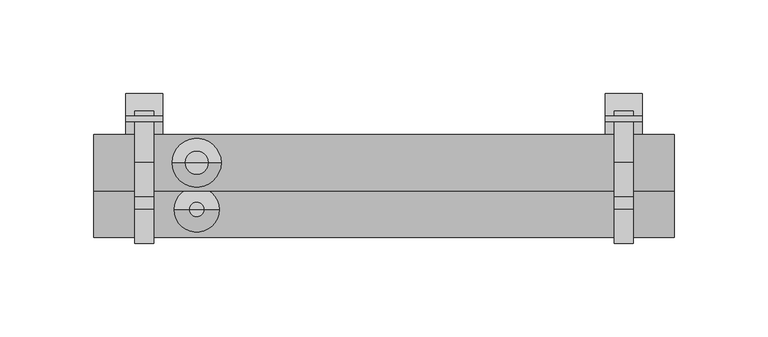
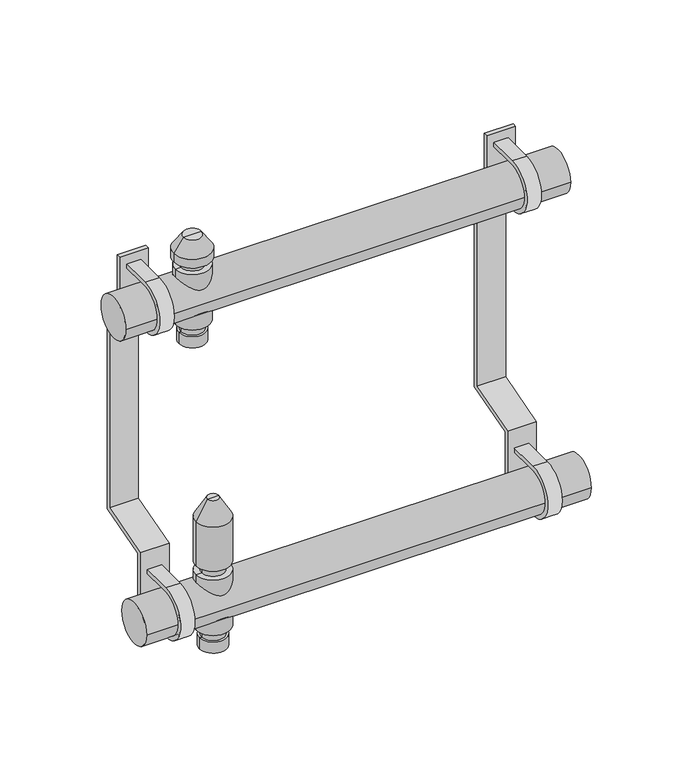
"""IFC4 building model written with IfcOpenShell, lengths in millimetres: valve geometry, PL CZ_Manifold_FT-VA : 05 circuits."""

import ifcopenshell
import ifcopenshell.guid

model = None  # the IFC model being written
_history = None  # IfcOwnerHistory: only IFC2X3 demands one
_inside = {}  # id of a spatial element -> (the spatial element, [elements in it])
_under = {}  # id of a project, library or spatial element -> (it, [spatial elements below it])
_declared = {}  # id of a project -> (the project, [libraries it declares])
_typed = {}  # id of a type object -> (the type object, [elements of that type])
_made_of = {}  # id of a material, layer set ... -> (it, [elements and type objects made of it])


def new_model(schema):
    """Start an empty IFC model of exactly this schema.

    Asked for "IFC4X3", IfcOpenShell would pick the latest addendum, in which some entities
    have other attributes; the version numbers below select the first issue.
    IFC2X3 requires an IfcOwnerHistory on every rooted entity: one is made here for all.
    """
    global model, _history
    if schema == "IFC4X3":
        model = ifcopenshell.file(schema_version=(4, 3, 0, 0))
    else:
        model = ifcopenshell.file(schema=schema)
    _inside.clear()
    _under.clear()
    _declared.clear()
    _typed.clear()
    _made_of.clear()
    _history = None
    if model.schema == "IFC2X3":
        org = make("IfcOrganization", Name="unknown")
        user = make(
            "IfcPersonAndOrganization",
            ThePerson=make("IfcPerson", FamilyName="unknown"),
            TheOrganization=org,
        )
        app = make(
            "IfcApplication",
            ApplicationDeveloper=org,
            Version="unknown",
            ApplicationFullName="unknown",
            ApplicationIdentifier="unknown",
        )
        _history = make(
            "IfcOwnerHistory",
            OwningUser=user,
            OwningApplication=app,
            ChangeAction="ADDED",
            CreationDate=0,
        )
    return model


def make(cls, **values):
    """One entity of the class cls with the attributes given. An attribute that is None is left unset."""
    return model.create_entity(
        cls, **{name: value for name, value in values.items() if value is not None}
    )


def rooted(cls, **values):
    """An entity with a GlobalId (a new one), such as an element, a storey or a relation."""
    return make(cls, GlobalId=ifcopenshell.guid.new(), OwnerHistory=_history, **values)


def si_unit(unit_type, name, prefix=None):
    """IfcSIUnit, for example si_unit("LENGTHUNIT", "METRE", prefix="MILLI")."""
    return make("IfcSIUnit", UnitType=unit_type, Prefix=prefix, Name=name)


def assignment(units):
    """IfcUnitAssignment: the units of a project."""
    return None if units is None else make("IfcUnitAssignment", Units=units)


def point(xyz):
    """IfcCartesianPoint."""
    return None if xyz is None else make("IfcCartesianPoint", Coordinates=xyz)


def direction(xyz):
    """IfcDirection."""
    return None if xyz is None else make("IfcDirection", DirectionRatios=xyz)


def frame(location, z_axis=None, x_axis=None):
    """IfcAxis2Placement3D, a coordinate frame: its origin and axes. An axis left out is left unset."""
    return make(
        "IfcAxis2Placement3D",
        Location=point(location),
        Axis=direction(z_axis),
        RefDirection=direction(x_axis),
    )


def frame_2d(location, x_axis=None):
    """IfcAxis2Placement2D, a coordinate frame in the plane: its origin and x axis."""
    return make(
        "IfcAxis2Placement2D", Location=point(location), RefDirection=direction(x_axis)
    )


def origin():
    """The frame at (0, 0, 0) with its axes left unset."""
    return frame((0.0, 0.0, 0.0))


def origin_2d():
    """The frame at (0, 0) in the plane with its x axis left unset."""
    return frame_2d((0.0, 0.0))


def place(relative_to, where):
    """IfcLocalPlacement: puts the frame where relative to a parent placement (None: the world)."""
    return make(
        "IfcLocalPlacement", PlacementRelTo=relative_to, RelativePlacement=where
    )


def context(
    kind, dimensions, precision=None, world=None, true_north=None, identifier=None
):
    """IfcGeometricRepresentationContext, for example the 3D "Model" context."""
    return make(
        "IfcGeometricRepresentationContext",
        ContextIdentifier=identifier,
        ContextType=kind,
        CoordinateSpaceDimension=dimensions,
        Precision=precision,
        WorldCoordinateSystem=world,
        TrueNorth=true_north,
    )


def project(units=None, contexts=None):
    """IfcProject with its units and contexts."""
    return rooted(
        "IfcProject",
        Name="project",
        RepresentationContexts=contexts,
        UnitsInContext=assignment(units),
    )


def spatial(cls, under=None, at=None, **own):
    """A site, building, storey or space (cls), placed at a placement, below another one or the project."""
    s = rooted(cls, ObjectPlacement=at, **own)
    if under is not None:
        _under.setdefault(under.id(), (under, []))[1].append(s)
    return s


def polyline(points):
    """IfcPolyline through the points."""
    return make("IfcPolyline", Points=[point(p) for p in points])


def circle_curve(where, radius):
    """IfcCircle in the frame where."""
    return make("IfcCircle", Position=where, Radius=radius)


def trimmed(basis, trim1, trim2, sense, master):
    """IfcTrimmedCurve: the piece of a basis curve between two trims."""
    return make(
        "IfcTrimmedCurve",
        BasisCurve=basis,
        Trim1=trim1,
        Trim2=trim2,
        SenseAgreement=sense,
        MasterRepresentation=master,
    )


def segment(curve, same_sense, transition):
    """IfcCompositeCurveSegment."""
    return make(
        "IfcCompositeCurveSegment",
        Transition=transition,
        SameSense=same_sense,
        ParentCurve=curve,
    )


def composite_curve(segments, self_intersect=None):
    """IfcCompositeCurve: segments joined end to end."""
    return make("IfcCompositeCurve", Segments=segments, SelfIntersect=self_intersect)


def outline(outer, holes=None, kind="AREA"):
    """IfcArbitraryClosedProfileDef: a profile drawn as a closed curve; with holes, ...WithVoids."""
    if holes is None:
        return make("IfcArbitraryClosedProfileDef", ProfileType=kind, OuterCurve=outer)
    return make(
        "IfcArbitraryProfileDefWithVoids",
        ProfileType=kind,
        OuterCurve=outer,
        InnerCurves=holes,
    )


def extrude(swept, where, along, depth):
    """IfcExtrudedAreaSolid: the profile swept, set in the frame where, extruded along a direction by depth."""
    return make(
        "IfcExtrudedAreaSolid",
        SweptArea=swept,
        Position=where,
        ExtrudedDirection=direction(along),
        Depth=depth,
    )


def shape(context_of_items, identifier, shape_type, items):
    """IfcShapeRepresentation: the items that make up one representation, for example the "Body"."""
    return make(
        "IfcShapeRepresentation",
        ContextOfItems=context_of_items,
        RepresentationIdentifier=identifier,
        RepresentationType=shape_type,
        Items=items,
    )


def source(mapping_origin, context_of_items, identifier, shape_type, items):
    """IfcRepresentationMap: a shape defined once, which mapped items show again and again."""
    return make(
        "IfcRepresentationMap",
        MappingOrigin=mapping_origin,
        MappedRepresentation=shape(context_of_items, identifier, shape_type, items),
    )


def transform(
    local_origin,
    x_axis=None,
    y_axis=None,
    z_axis=None,
    scale=None,
    scale2=None,
    scale3=None,
    uniform=True,
):
    """IfcCartesianTransformationOperator3D, or its non-uniform kind. x_axis, y_axis, z_axis: its Axis1, 2, 3."""
    if uniform:
        return make(
            "IfcCartesianTransformationOperator3D",
            Axis1=direction(x_axis),
            Axis2=direction(y_axis),
            LocalOrigin=point(local_origin),
            Scale=scale,
            Axis3=direction(z_axis),
        )
    return make(
        "IfcCartesianTransformationOperator3DnonUniform",
        Axis1=direction(x_axis),
        Axis2=direction(y_axis),
        LocalOrigin=point(local_origin),
        Scale=scale,
        Axis3=direction(z_axis),
        Scale2=scale2,
        Scale3=scale3,
    )


def mapped(mapping_source, mapping_target):
    """IfcMappedItem: shows the shape of a source again, moved by a transform."""
    return make(
        "IfcMappedItem", MappingSource=mapping_source, MappingTarget=mapping_target
    )


def made_of(thing, what):
    """Note that an element or type object is made of a material, layer set ...; save() writes the relation."""
    if what is not None:
        _made_of.setdefault(what.id(), (what, []))[1].append(thing)
    return thing


def element(
    cls,
    number,
    at=None,
    inside=None,
    cuts=None,
    type_object=None,
    material=None,
    context=None,
    identifier="Body",
    shape_type=None,
    held_by="IfcProductDefinitionShape",
    body=None,
    shapes=None,
    **own,
):
    """One element of the class cls, such as IfcWall. Its Tag is "e" and its number.

    at: its placement. inside: the storey or other place that contains it. cuts: it is an
    opening in that element (IfcRelVoidsElement). A single representation is given by context,
    identifier, shape_type and body (its items); several are given by shapes. held_by: the class
    of the entity that holds the representations. save() writes the other relations.
    """
    e = rooted(cls, Tag="e%d" % number, ObjectPlacement=at, **own)
    if body is not None:
        shapes = [shape(context, identifier, shape_type, body)]
    if shapes is not None:
        e.Representation = make(held_by, Representations=shapes)
    if inside is not None:
        _inside.setdefault(inside.id(), (inside, []))[1].append(e)
    if cuts is not None:
        rooted(
            "IfcRelVoidsElement", RelatingBuildingElement=cuts, RelatedOpeningElement=e
        )
    if type_object is not None:
        _typed.setdefault(type_object.id(), (type_object, []))[1].append(e)
    return made_of(e, material)


def aggregate(whole, parts):
    """IfcRelAggregates: a whole, such as a stair, and the parts it consists of."""
    return rooted("IfcRelAggregates", RelatingObject=whole, RelatedObjects=parts)


def save(model, path):
    """Write the relations noted so far, then the file.

    IfcRelAggregates (storeys below a building ...), IfcRelContainedInSpatialStructure (elements
    in a storey), IfcRelDefinesByType, IfcRelAssociatesMaterial and IfcRelDeclares: one each for
    every whole, place, type object, material and project.
    """
    for whole, parts in _under.values():
        aggregate(whole, parts)
    for where, things in _inside.values():
        rooted(
            "IfcRelContainedInSpatialStructure",
            RelatedElements=things,
            RelatingStructure=where,
        )
    for kind, things in _typed.values():
        rooted("IfcRelDefinesByType", RelatedObjects=things, RelatingType=kind)
    for what, things in _made_of.values():
        rooted("IfcRelAssociatesMaterial", RelatedObjects=things, RelatingMaterial=what)
    for by, libraries in _declared.values():
        rooted("IfcRelDeclares", RelatingContext=by, RelatedDefinitions=libraries)
    model.write(path)


def plane_surface(at):
    """IfcPlane: the flat surface through the origin of the frame at, square to its z axis."""
    return make("IfcPlane", Position=at)


def cylinder_surface(at, radius):
    """IfcCylindricalSurface: all points at the distance radius from the z axis of the frame at."""
    return make("IfcCylindricalSurface", Position=at, Radius=radius)


def revolved_surface(curve, axis_point, axis_direction):
    """IfcSurfaceOfRevolution: the curve turned about the line through axis_point along axis_direction."""
    return make(
        "IfcSurfaceOfRevolution",
        SweptCurve=make("IfcArbitraryOpenProfileDef", ProfileType="CURVE", Curve=curve),
        AxisPosition=make("IfcAxis1Placement", Location=point(axis_point), Axis=direction(axis_direction)),
    )


def advanced_brep(points, edges, surfaces, faces):
    """IfcAdvancedBrep: a solid bounded by faces that lie on surfaces and meet in shared edges.

    An edge is (start, end): straight between two places in points (the first is 0);
    or (start, end, curve); or (start, end, curve, False) where it runs against its curve.
    A face is (place in surfaces, loops), or (place, loops, False) where it looks against
    its surface's normal. A loop lists edges by number (the first is 1), with a minus sign
    where the edge is run from its end to its start. The first loop is the outer one.
    """
    corners = [point(p) for p in points]
    vertices = [make("IfcVertexPoint", VertexGeometry=c) for c in corners]
    made = []
    for start, end, *more in edges:
        made.append(
            make(
                "IfcEdgeCurve",
                EdgeStart=vertices[start],
                EdgeEnd=vertices[end],
                EdgeGeometry=more[0] if more else make("IfcPolyline", Points=[corners[start], corners[end]]),
                SameSense=more[1] if len(more) > 1 else True,
            )
        )
    hull = []
    for where, loops, *sense in faces:
        bounds = []
        for j, loop in enumerate(loops):
            ring = [make("IfcOrientedEdge", EdgeElement=made[abs(k) - 1], Orientation=k > 0) for k in loop]
            bounds.append(
                make(
                    "IfcFaceOuterBound" if j == 0 else "IfcFaceBound",
                    Bound=make("IfcEdgeLoop", EdgeList=ring),
                    Orientation=True,
                )
            )
        hull.append(make("IfcAdvancedFace", Bounds=bounds, FaceSurface=surfaces[where], SameSense=sense[0] if sense else True))
    return make("IfcAdvancedBrep", Outer=make("IfcClosedShell", CfsFaces=hull))


def valve_1cd17e95(model_context):
    return source(origin(), model_context, "Body", "SolidModel", [
        advanced_brep(
        [(28.5, 25.0, 174.88733), (47.5, 25.0, 174.88733), (38.0, 25.0, 174.88733), (28.5, 25.0, 182.9630354), (47.5, 25.0, 182.9630354), (30.0, 25.0, 182.9630354), (46.0, 25.0, 182.9630354), (30.0, 25.0, 189.669747), (46.0, 25.0, 189.669747), (26.0, 25.0, 189.669747), (50.0, 25.0, 189.669747), (26.0, 25.0, 230.330253), (50.0, 25.0, 230.330253), (30.0, 25.0, 230.330253), (46.0, 25.0, 230.330253), (30.0, 25.0, 236.0474786), (46.0, 25.0, 236.0474786), (25.0, 25.0, 236.0474786), (51.0, 25.0, 236.0474786), (25.0, 25.0, 242.337955), (51.0, 25.0, 242.337955), (31.6551779, 25.0, 251.842534), (44.3448221, 25.0, 251.842534), (38.0, 25.0, 251.842534)],
        [
            (0, 1, circle_curve(frame((38.0, 25.0, 174.88733), z_axis=(0.0, 0.0, -1.0), x_axis=(1.0, 0.0, 0.0)), 9.5)),
            (1, 2),
            (2, 0),
            (1, 0, circle_curve(frame((38.0, 25.0, 174.88733), z_axis=(0.0, 0.0, -1.0), x_axis=(1.0, 0.0, 0.0)), 9.5)),
            (3, 4, circle_curve(frame((38.0, 25.0, 182.9630354), z_axis=(0.0, 0.0, -1.0), x_axis=(1.0, 0.0, 0.0)), 9.5)),
            (4, 1),
            (0, 3),
            (4, 3, circle_curve(frame((38.0, 25.0, 182.9630354), z_axis=(0.0, 0.0, -1.0), x_axis=(1.0, 0.0, 0.0)), 9.5)),
            (5, 6, circle_curve(frame((38.0, 25.0, 182.9630354), z_axis=(0.0, 0.0, -1.0), x_axis=(1.0, 0.0, 0.0)), 8.0)),
            (6, 4),
            (3, 5),
            (6, 5, circle_curve(frame((38.0, 25.0, 182.9630354), z_axis=(0.0, 0.0, -1.0), x_axis=(1.0, 0.0, 0.0)), 8.0)),
            (7, 8, circle_curve(frame((38.0, 25.0, 189.669747), z_axis=(0.0, 0.0, -1.0), x_axis=(1.0, 0.0, 0.0)), 8.0)),
            (8, 6),
            (5, 7),
            (8, 7, circle_curve(frame((38.0, 25.0, 189.669747), z_axis=(0.0, 0.0, -1.0), x_axis=(1.0, 0.0, 0.0)), 8.0)),
            (9, 10, circle_curve(frame((38.0, 25.0, 189.669747), z_axis=(0.0, 0.0, -1.0), x_axis=(1.0, 0.0, 0.0)), 12.0)),
            (10, 8),
            (7, 9),
            (10, 9, circle_curve(frame((38.0, 25.0, 189.669747), z_axis=(0.0, 0.0, -1.0), x_axis=(1.0, 0.0, 0.0)), 12.0)),
            (11, 12, circle_curve(frame((38.0, 25.0, 230.330253), z_axis=(0.0, 0.0, -1.0), x_axis=(1.0, 0.0, 0.0)), 12.0)),
            (12, 10),
            (9, 11),
            (12, 11, circle_curve(frame((38.0, 25.0, 230.330253), z_axis=(0.0, 0.0, -1.0), x_axis=(1.0, 0.0, 0.0)), 12.0)),
            (13, 14, circle_curve(frame((38.0, 25.0, 230.330253), z_axis=(0.0, 0.0, -1.0), x_axis=(1.0, 0.0, 0.0)), 8.0)),
            (14, 12),
            (11, 13),
            (14, 13, circle_curve(frame((38.0, 25.0, 230.330253), z_axis=(0.0, 0.0, -1.0), x_axis=(1.0, 0.0, 0.0)), 8.0)),
            (15, 16, circle_curve(frame((38.0, 25.0, 236.0474786), z_axis=(0.0, 0.0, -1.0), x_axis=(1.0, 0.0, 0.0)), 8.0)),
            (16, 14),
            (13, 15),
            (16, 15, circle_curve(frame((38.0, 25.0, 236.0474786), z_axis=(0.0, 0.0, -1.0), x_axis=(1.0, 0.0, 0.0)), 8.0)),
            (17, 18, circle_curve(frame((38.0, 25.0, 236.0474786), z_axis=(0.0, 0.0, -1.0), x_axis=(1.0, 0.0, 0.0)), 13.0)),
            (18, 16),
            (15, 17),
            (18, 17, circle_curve(frame((38.0, 25.0, 236.0474786), z_axis=(0.0, 0.0, -1.0), x_axis=(1.0, 0.0, 0.0)), 13.0)),
            (19, 20, circle_curve(frame((38.0, 25.0, 242.337955), z_axis=(0.0, 0.0, -1.0), x_axis=(1.0, 0.0, 0.0)), 13.0)),
            (20, 18),
            (17, 19),
            (20, 19, circle_curve(frame((38.0, 25.0, 242.337955), z_axis=(0.0, 0.0, -1.0), x_axis=(1.0, 0.0, 0.0)), 13.0)),
            (21, 22, circle_curve(frame((38.0, 25.0, 251.842534), z_axis=(0.0, 0.0, -1.0), x_axis=(1.0, 0.0, 0.0)), 6.3448221)),
            (22, 20),
            (19, 21),
            (22, 21, circle_curve(frame((38.0, 25.0, 251.842534), z_axis=(0.0, 0.0, -1.0), x_axis=(1.0, 0.0, 0.0)), 6.3448221)),
            (23, 22),
            (21, 23),
        ],
        [
            plane_surface(frame((38.0, 25.0, 174.88733), z_axis=(0.0, 0.0, -1.0), x_axis=(1.0, 0.0, 0.0))),
            cylinder_surface(frame((38.0, 25.0, 247.7026565), z_axis=(0.0, 0.0, 1.0), x_axis=(1.0, 0.0, 0.0)), 9.5),
            plane_surface(frame((38.0, 25.0, 182.9630354), z_axis=(0.0, 0.0, 1.0), x_axis=(1.0, 0.0, 0.0))),
            cylinder_surface(frame((38.0, 25.0, 247.7026565), z_axis=(0.0, 0.0, 1.0), x_axis=(1.0, 0.0, 0.0)), 8.0),
            plane_surface(frame((38.0, 25.0, 189.669747), z_axis=(0.0, 0.0, -1.0), x_axis=(1.0, 0.0, 0.0))),
            cylinder_surface(frame((38.0, 25.0, 247.7026565), z_axis=(0.0, 0.0, 1.0), x_axis=(1.0, 0.0, 0.0)), 12.0),
            plane_surface(frame((38.0, 25.0, 230.330253), z_axis=(0.0, 0.0, 1.0), x_axis=(1.0, 0.0, 0.0))),
            plane_surface(frame((38.0, 25.0, 236.0474786), z_axis=(0.0, 0.0, -1.0), x_axis=(1.0, 0.0, 0.0))),
            cylinder_surface(frame((38.0, 25.0, 247.7026565), z_axis=(0.0, 0.0, 1.0), x_axis=(1.0, 0.0, 0.0)), 13.0),
            revolved_surface(polyline([(51.0, 25.0, 242.337955), (44.3448221, 25.0, 251.842534)]), (38.0, 25.0, 247.7026565), (0.0, 0.0, 1.0)),
            plane_surface(frame((38.0, 25.0, 251.842534), z_axis=(0.0, 0.0, 1.0), x_axis=(1.0, 0.0, 0.0))),
        ],
        [
            (0, [[1, 2, 3]]),
            (0, [[4, -3, -2]]),
            (1, [[5, 6, -1, 7]]),
            (1, [[8, -7, -4, -6]]),
            (2, [[9, 10, -5, 11]]),
            (2, [[12, -11, -8, -10]]),
            (3, [[13, 14, -9, 15]]),
            (3, [[16, -15, -12, -14]]),
            (4, [[17, 18, -13, 19]]),
            (4, [[20, -19, -16, -18]]),
            (5, [[21, 22, -17, 23]]),
            (5, [[24, -23, -20, -22]]),
            (6, [[25, 26, -21, 27]]),
            (6, [[28, -27, -24, -26]]),
            (3, [[29, 30, -25, 31]]),
            (3, [[32, -31, -28, -30]]),
            (7, [[33, 34, -29, 35]]),
            (7, [[36, -35, -32, -34]]),
            (8, [[37, 38, -33, 39]]),
            (8, [[40, -39, -36, -38]]),
            (9, [[41, 42, -37, 43]]),
            (9, [[44, -43, -40, -42]]),
            (10, [[45, -41, 46]]),
            (10, [[-46, -44, -45]]),
        ],
    ),
        advanced_brep(
        [(28.5, 0.0, -35.11267), (47.5, 0.0, -35.11267), (38.0, 0.0, -35.11267), (28.5, 0.0, -27.0369646), (47.5, 0.0, -27.0369646), (30.0, 0.0, -27.0369646), (46.0, 0.0, -27.0369646), (30.0, 0.0, -20.330253), (46.0, 0.0, -20.330253), (26.0, 0.0, -20.330253), (50.0, 0.0, -20.330253), (26.0, 0.0, 20.330253), (50.0, 0.0, 20.330253), (30.0, 0.0, 20.330253), (46.0, 0.0, 20.330253), (30.0, 0.0, 27.0474786), (46.0, 0.0, 27.0474786), (26.0, 0.0, 27.0474786), (50.0, 0.0, 27.0474786), (26.0, 0.0, 59.4084325), (50.0, 0.0, 59.4084325), (34.0, 0.0, 73.264839), (42.0, 0.0, 73.264839), (38.0, 0.0, 73.264839)],
        [
            (0, 1, circle_curve(frame((38.0, 0.0, -35.11267), z_axis=(0.0, 0.0, -1.0), x_axis=(1.0, 0.0, 0.0)), 9.5)),
            (1, 2),
            (2, 0),
            (1, 0, circle_curve(frame((38.0, 0.0, -35.11267), z_axis=(0.0, 0.0, -1.0), x_axis=(1.0, 0.0, 0.0)), 9.5)),
            (3, 4, circle_curve(frame((38.0, 0.0, -27.0369646), z_axis=(0.0, 0.0, -1.0), x_axis=(1.0, 0.0, 0.0)), 9.5)),
            (4, 1),
            (0, 3),
            (4, 3, circle_curve(frame((38.0, 0.0, -27.0369646), z_axis=(0.0, 0.0, -1.0), x_axis=(1.0, 0.0, 0.0)), 9.5)),
            (5, 6, circle_curve(frame((38.0, 0.0, -27.0369646), z_axis=(0.0, 0.0, -1.0), x_axis=(1.0, 0.0, 0.0)), 8.0)),
            (6, 4),
            (3, 5),
            (6, 5, circle_curve(frame((38.0, 0.0, -27.0369646), z_axis=(0.0, 0.0, -1.0), x_axis=(1.0, 0.0, 0.0)), 8.0)),
            (7, 8, circle_curve(frame((38.0, 0.0, -20.330253), z_axis=(0.0, 0.0, -1.0), x_axis=(1.0, 0.0, 0.0)), 8.0)),
            (8, 6),
            (5, 7),
            (8, 7, circle_curve(frame((38.0, 0.0, -20.330253), z_axis=(0.0, 0.0, -1.0), x_axis=(1.0, 0.0, 0.0)), 8.0)),
            (9, 10, circle_curve(frame((38.0, 0.0, -20.330253), z_axis=(0.0, 0.0, -1.0), x_axis=(1.0, 0.0, 0.0)), 12.0)),
            (10, 8),
            (7, 9),
            (10, 9, circle_curve(frame((38.0, 0.0, -20.330253), z_axis=(0.0, 0.0, -1.0), x_axis=(1.0, 0.0, 0.0)), 12.0)),
            (11, 12, circle_curve(frame((38.0, 0.0, 20.330253), z_axis=(0.0, 0.0, -1.0), x_axis=(1.0, 0.0, 0.0)), 12.0)),
            (12, 10),
            (9, 11),
            (12, 11, circle_curve(frame((38.0, 0.0, 20.330253), z_axis=(0.0, 0.0, -1.0), x_axis=(1.0, 0.0, 0.0)), 12.0)),
            (13, 14, circle_curve(frame((38.0, 0.0, 20.330253), z_axis=(0.0, 0.0, -1.0), x_axis=(1.0, 0.0, 0.0)), 8.0)),
            (14, 12),
            (11, 13),
            (14, 13, circle_curve(frame((38.0, 0.0, 20.330253), z_axis=(0.0, 0.0, -1.0), x_axis=(1.0, 0.0, 0.0)), 8.0)),
            (15, 16, circle_curve(frame((38.0, 0.0, 27.0474786), z_axis=(0.0, 0.0, -1.0), x_axis=(1.0, 0.0, 0.0)), 8.0)),
            (16, 14),
            (13, 15),
            (16, 15, circle_curve(frame((38.0, 0.0, 27.0474786), z_axis=(0.0, 0.0, -1.0), x_axis=(1.0, 0.0, 0.0)), 8.0)),
            (17, 18, circle_curve(frame((38.0, 0.0, 27.0474786), z_axis=(0.0, 0.0, -1.0), x_axis=(1.0, 0.0, 0.0)), 12.0)),
            (18, 16),
            (15, 17),
            (18, 17, circle_curve(frame((38.0, 0.0, 27.0474786), z_axis=(0.0, 0.0, -1.0), x_axis=(1.0, 0.0, 0.0)), 12.0)),
            (19, 20, circle_curve(frame((38.0, 0.0, 59.4084325), z_axis=(0.0, 0.0, -1.0), x_axis=(1.0, 0.0, 0.0)), 12.0)),
            (20, 18),
            (17, 19),
            (20, 19, circle_curve(frame((38.0, 0.0, 59.4084325), z_axis=(0.0, 0.0, -1.0), x_axis=(1.0, 0.0, 0.0)), 12.0)),
            (21, 22, circle_curve(frame((38.0, 0.0, 73.264839), z_axis=(0.0, 0.0, -1.0), x_axis=(1.0, 0.0, 0.0)), 4.0)),
            (22, 20),
            (19, 21),
            (22, 21, circle_curve(frame((38.0, 0.0, 73.264839), z_axis=(0.0, 0.0, -1.0), x_axis=(1.0, 0.0, 0.0)), 4.0)),
            (23, 22),
            (21, 23),
        ],
        [
            plane_surface(frame((38.0, 0.0, -35.11267), z_axis=(0.0, 0.0, -1.0), x_axis=(1.0, 0.0, 0.0))),
            cylinder_surface(frame((38.0, 0.0, 58.264839), z_axis=(0.0, 0.0, 1.0), x_axis=(1.0, 0.0, 0.0)), 9.5),
            plane_surface(frame((38.0, 0.0, -27.0369646), z_axis=(0.0, 0.0, 1.0), x_axis=(1.0, 0.0, 0.0))),
            cylinder_surface(frame((38.0, 0.0, 58.264839), z_axis=(0.0, 0.0, 1.0), x_axis=(1.0, 0.0, 0.0)), 8.0),
            plane_surface(frame((38.0, 0.0, -20.330253), z_axis=(0.0, 0.0, -1.0), x_axis=(1.0, 0.0, 0.0))),
            cylinder_surface(frame((38.0, 0.0, 58.264839), z_axis=(0.0, 0.0, 1.0), x_axis=(1.0, 0.0, 0.0)), 12.0),
            plane_surface(frame((38.0, 0.0, 20.330253), z_axis=(0.0, 0.0, 1.0), x_axis=(1.0, 0.0, 0.0))),
            plane_surface(frame((38.0, 0.0, 27.0474786), z_axis=(0.0, 0.0, -1.0), x_axis=(1.0, 0.0, 0.0))),
            revolved_surface(polyline([(50.0, 0.0, 59.4084325), (42.0, 0.0, 73.264839)]), (38.0, 0.0, 58.264839), (0.0, 0.0, 1.0)),
            plane_surface(frame((38.0, 0.0, 73.264839), z_axis=(0.0, 0.0, 1.0), x_axis=(1.0, 0.0, 0.0))),
        ],
        [
            (0, [[1, 2, 3]]),
            (0, [[4, -3, -2]]),
            (1, [[5, 6, -1, 7]]),
            (1, [[8, -7, -4, -6]]),
            (2, [[9, 10, -5, 11]]),
            (2, [[12, -11, -8, -10]]),
            (3, [[13, 14, -9, 15]]),
            (3, [[16, -15, -12, -14]]),
            (4, [[17, 18, -13, 19]]),
            (4, [[20, -19, -16, -18]]),
            (5, [[21, 22, -17, 23]]),
            (5, [[24, -23, -20, -22]]),
            (6, [[25, 26, -21, 27]]),
            (6, [[28, -27, -24, -26]]),
            (3, [[29, 30, -25, 31]]),
            (3, [[32, -31, -28, -30]]),
            (7, [[33, 34, -29, 35]]),
            (7, [[36, -35, -32, -34]]),
            (5, [[37, 38, -33, 39]]),
            (5, [[40, -39, -36, -38]]),
            (8, [[41, 42, -37, 43]]),
            (8, [[44, -43, -40, -42]]),
            (9, [[45, -41, 46]]),
            (9, [[-46, -44, -45]]),
        ],
    ),
        extrude(outline(composite_curve([segment(trimmed(circle_curve(origin_2d(), 15.0), [point((0.0, 15.0))], [point((0.0, -15.0))], True, "CARTESIAN"), True, "CONTINUOUS"), segment(polyline([(0.0, -15.0), (27.6751284, -15.0), (27.6751284, -18.0), (0.0, -18.0)]), True, "CONTINUOUS"), segment(trimmed(circle_curve(origin_2d(), 18.0), [point((0.0, -18.0))], [point((0.0, 18.0))], False, "CARTESIAN"), True, "CONTINUOUS"), segment(polyline([(0.0, 18.0), (27.6751284, 18.0), (27.6751284, 15.0), (0.0, 15.0)]), True, "CONTINUOUS")], self_intersect=False)), frame((261.0, 0.0, 0.0), z_axis=(1.0, 0.0, 0.0), x_axis=(0.0, 1.0, 0.0)), (0.0, 0.0, 1.0), 10.0),
        extrude(outline(composite_curve([segment(trimmed(circle_curve(frame_2d((25.0, 210.0)), 15.0), [point((25.0, 225.0))], [point((25.0, 195.0))], True, "CARTESIAN"), True, "CONTINUOUS"), segment(polyline([(25.0, 195.0), (52.6751284, 195.0), (52.6751284, 192.0), (25.0, 192.0)]), True, "CONTINUOUS"), segment(trimmed(circle_curve(frame_2d((25.0, 210.0)), 18.0), [point((25.0, 192.0))], [point((25.0, 228.0))], False, "CARTESIAN"), True, "CONTINUOUS"), segment(polyline([(25.0, 228.0), (52.6751284, 228.0), (52.6751284, 225.0), (25.0, 225.0)]), True, "CONTINUOUS")], self_intersect=False)), frame((261.0, 0.0, 0.0), z_axis=(1.0, 0.0, 0.0), x_axis=(0.0, 1.0, 0.0)), (0.0, 0.0, 1.0), 10.0),
        extrude(outline(polyline([(62.0, 182.8840762), (62.0, 40.6095793), (25.0, 30.0), (25.0, -30.0), (22.0, -30.0), (22.0, 32.2606622), (59.0, 42.8702414), (59.0, 180.3667773), (47.0, 182.4827011), (47.0, 235.0), (50.0, 235.0), (50.0, 185.0), (62.0, 182.8840762)])), frame((256.0, 0.0, 0.0), z_axis=(1.0, 0.0, 0.0), x_axis=(0.0, 1.0, 0.0)), (0.0, 0.0, 1.0), 20.0),
        extrude(outline(composite_curve([segment(trimmed(circle_curve(origin_2d(), 15.0), [point((0.0, 15.0))], [point((0.0, -15.0))], True, "CARTESIAN"), True, "CONTINUOUS"), segment(polyline([(0.0, -15.0), (27.6751284, -15.0), (27.6751284, -18.0), (0.0, -18.0)]), True, "CONTINUOUS"), segment(trimmed(circle_curve(origin_2d(), 18.0), [point((0.0, -18.0))], [point((0.0, 18.0))], False, "CARTESIAN"), True, "CONTINUOUS"), segment(polyline([(0.0, 18.0), (27.6751284, 18.0), (27.6751284, 15.0), (0.0, 15.0)]), True, "CONTINUOUS")], self_intersect=False)), frame((5.0, 0.0, 0.0), z_axis=(1.0, 0.0, 0.0), x_axis=(0.0, 1.0, 0.0)), (0.0, 0.0, 1.0), 10.0),
        extrude(outline(composite_curve([segment(trimmed(circle_curve(frame_2d((25.0, 210.0)), 15.0), [point((25.0, 225.0))], [point((25.0, 195.0))], True, "CARTESIAN"), True, "CONTINUOUS"), segment(polyline([(25.0, 195.0), (52.6751284, 195.0), (52.6751284, 192.0), (25.0, 192.0)]), True, "CONTINUOUS"), segment(trimmed(circle_curve(frame_2d((25.0, 210.0)), 18.0), [point((25.0, 192.0))], [point((25.0, 228.0))], False, "CARTESIAN"), True, "CONTINUOUS"), segment(polyline([(25.0, 228.0), (52.6751284, 228.0), (52.6751284, 225.0), (25.0, 225.0)]), True, "CONTINUOUS")], self_intersect=False)), frame((5.0, 0.0, 0.0), z_axis=(1.0, 0.0, 0.0), x_axis=(0.0, 1.0, 0.0)), (0.0, 0.0, 1.0), 10.0),
        extrude(outline(polyline([(62.0, 182.8840762), (62.0, 40.6095793), (25.0, 30.0), (25.0, -30.0), (22.0, -30.0), (22.0, 32.2606622), (59.0, 42.8702414), (59.0, 180.3667773), (47.0, 182.4827011), (47.0, 235.0), (50.0, 235.0), (50.0, 185.0), (62.0, 182.8840762)])), frame((0.0, 0.0, 0.0), z_axis=(1.0, 0.0, 0.0), x_axis=(0.0, 1.0, 0.0)), (0.0, 0.0, 1.0), 20.0),
        extrude(outline(composite_curve([segment(trimmed(circle_curve(origin_2d(), 15.0), [point((15.0, 0.0))], [point((-15.0, 0.0))], False, "CARTESIAN"), True, "CONTINUOUS"), segment(trimmed(circle_curve(origin_2d(), 15.0), [point((-15.0, 0.0))], [point((15.0, 0.0))], False, "CARTESIAN"), True, "CONTINUOUS")], self_intersect=False)), frame((-17.0, 0.0, 0.0), z_axis=(1.0, 0.0, 0.0), x_axis=(0.0, 1.0, 0.0)), (0.0, 0.0, 1.0), 310.0),
        extrude(outline(composite_curve([segment(trimmed(circle_curve(frame_2d((25.0, 210.0)), 15.0), [point((40.0, 210.0))], [point((10.0, 210.0))], False, "CARTESIAN"), True, "CONTINUOUS"), segment(trimmed(circle_curve(frame_2d((25.0, 210.0)), 15.0), [point((10.0, 210.0))], [point((40.0, 210.0))], False, "CARTESIAN"), True, "CONTINUOUS")], self_intersect=False)), frame((-17.0, 0.0, 0.0), z_axis=(1.0, 0.0, 0.0), x_axis=(0.0, 1.0, 0.0)), (0.0, 0.0, 1.0), 310.0),
    ])


if __name__ == "__main__":
    model = new_model("IFC4")
    model_context = context("Model", 3, world=origin())
    ifc_project = project(units=[si_unit("LENGTHUNIT", "METRE", prefix="MILLI")], contexts=[model_context])
    site = spatial("IfcSite", under=ifc_project)
    building = spatial("IfcBuilding", under=site)
    placement = place(None, origin())
    valve_shape = valve_1cd17e95(model_context)
    element("IfcValve", 1, ObjectType="PL CZ_Manifold_FT-VA : 05 circuits", at=placement, inside=building, context=model_context, shape_type="MappedRepresentation", body=[
        mapped(valve_shape, transform((0.0, 0.0, 0.0), x_axis=(1.0, 0.0, 0.0), y_axis=(0.0, 1.0, 0.0), z_axis=(0.0, 0.0, 1.0))),
    ])
    save(model, "model.ifc")
